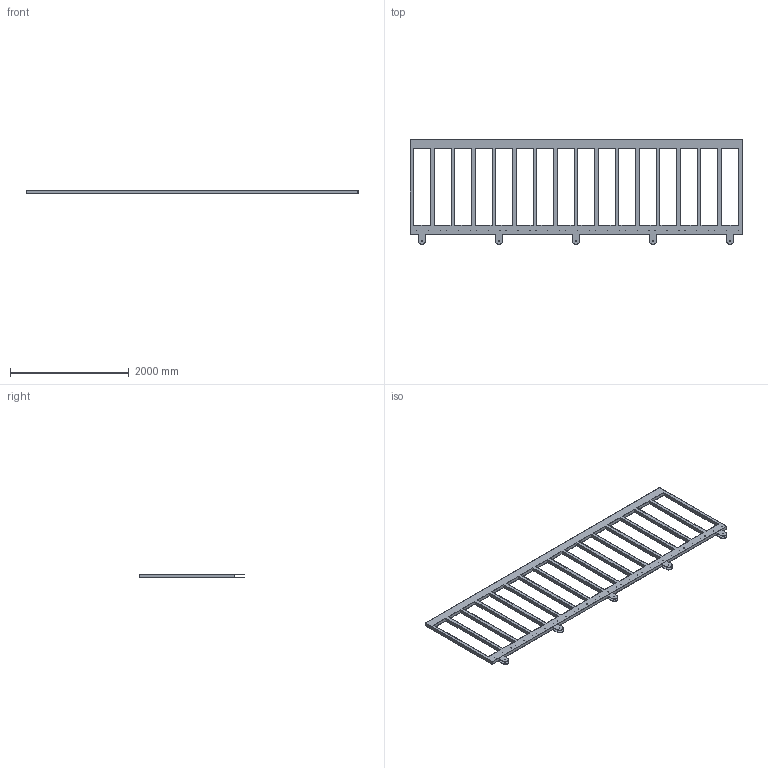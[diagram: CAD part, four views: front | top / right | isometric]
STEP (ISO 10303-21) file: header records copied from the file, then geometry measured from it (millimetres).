
FILE_DESCRIPTION (( 'STEP AP203' ), '1' );
FILE_NAME ('Portail_5m.STEP', '2025-09-18T12:07:30', ( '' ), ( '' ), 'SwSTEP 2.0', 'SolidWorks 2019', '' );
FILE_SCHEMA (( 'CONFIG_CONTROL_DESIGN' ));
Length unit declared in the file: millimetre
Products named in the file (1): Portail_5m
Bounding box: 5600 x 1770 x 60 mm (x, y, z)
Volume: 30493114.4 mm3; surface area: 19487157.7 mm2
Topology: 1 solids, 1 shells, 332 faces, 984 edges, 656 vertices
Faces by surface type: plane 170, cylinder 162
Entity records: 11697 total; most frequent: DIRECTION 1974, CARTESIAN_POINT 1973, ORIENTED_EDGE 1968, EDGE_CURVE 984, LINE 660, VECTOR 660, AXIS2_PLACEMENT_3D 657, VERTEX_POINT 656
